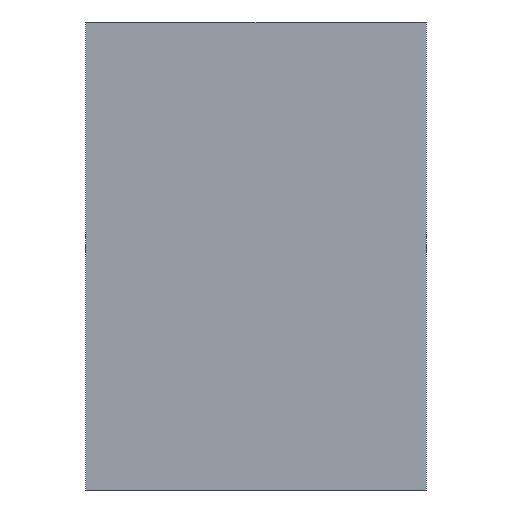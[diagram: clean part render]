
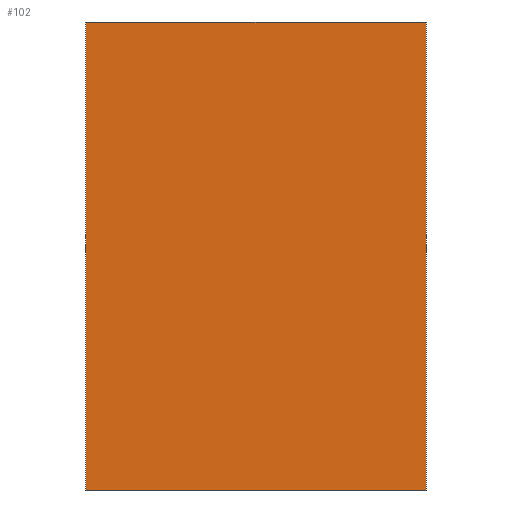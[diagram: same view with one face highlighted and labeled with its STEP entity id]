
A CAD part, front view. The second image highlights one B-rep face of the part: STEP entity #102.
In plain terms, the highlighted planar face has unit normal (0, -1, 0).
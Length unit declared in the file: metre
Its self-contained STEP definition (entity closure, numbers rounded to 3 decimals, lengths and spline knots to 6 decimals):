
#28=ORIENTED_EDGE('',*,*,#38,.F.);
#29=ORIENTED_EDGE('',*,*,#42,.T.);
#30=ORIENTED_EDGE('',*,*,#45,.T.);
#31=ORIENTED_EDGE('',*,*,#47,.F.);
#38=EDGE_CURVE('',#50,#51,#58,.T.);
#42=EDGE_CURVE('',#50,#53,#62,.T.);
#45=EDGE_CURVE('',#53,#55,#65,.T.);
#47=EDGE_CURVE('',#51,#55,#67,.T.);
#50=VERTEX_POINT('',#155);
#51=VERTEX_POINT('',#157);
#53=VERTEX_POINT('',#163);
#55=VERTEX_POINT('',#169);
#58=LINE('',#156,#70);
#62=LINE('',#164,#74);
#65=LINE('',#170,#77);
#67=LINE('',#173,#79);
#70=VECTOR('',#129,1.);
#74=VECTOR('',#135,1.);
#77=VECTOR('',#140,1.);
#79=VECTOR('',#144,1.);
#84=EDGE_LOOP('',(#28,#29,#30,#31));
#90=FACE_BOUND('',#84,.T.);
#96=PLANE('',#121);
#102=ADVANCED_FACE('',(#90),#96,.T.);
#121=AXIS2_PLACEMENT_3D('',#174,#145,#146);
#129=DIRECTION('',(0.,0.,-1.));
#135=DIRECTION('',(-1.,0.,0.));
#140=DIRECTION('',(0.,0.,-1.));
#144=DIRECTION('',(-1.,0.,0.));
#145=DIRECTION('',(0.,-1.,0.));
#146=DIRECTION('',(1.,0.,0.));
#155=CARTESIAN_POINT('',(0.063,-0.063,0.0865));
#156=CARTESIAN_POINT('',(0.063,-0.063,0.));
#157=CARTESIAN_POINT('',(0.063,-0.063,-0.0865));
#163=CARTESIAN_POINT('',(-0.063,-0.063,0.0865));
#164=CARTESIAN_POINT('',(0.,-0.063,0.0865));
#169=CARTESIAN_POINT('',(-0.063,-0.063,-0.0865));
#170=CARTESIAN_POINT('',(-0.063,-0.063,0.));
#173=CARTESIAN_POINT('',(0.,-0.063,-0.0865));
#174=CARTESIAN_POINT('',(0.,-0.063,0.));
